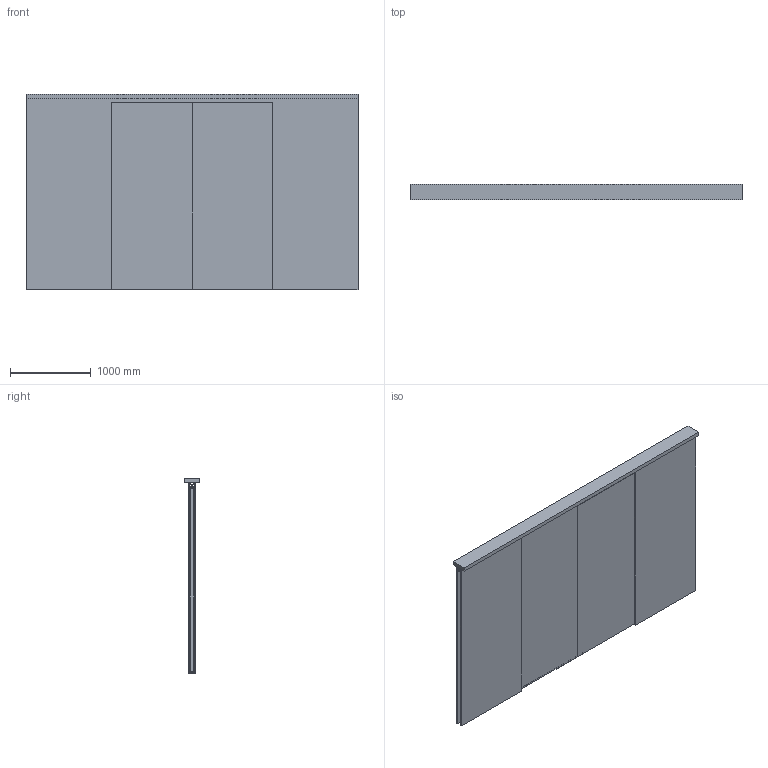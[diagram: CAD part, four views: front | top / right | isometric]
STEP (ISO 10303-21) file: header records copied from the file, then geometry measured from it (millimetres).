
FILE_DESCRIPTION(('STEP AP242'),'1');
FILE_NAME('OPO_65.080.21_volu_schn_3d.stp','2026-01-14T05:27:36',(' '),(' '),'Spatial InterOp 3D',' ',' ');
FILE_SCHEMA(('AP242_MANAGED_MODEL_BASED_3D_ENGINEERING_MIM_LF {1 0 10303 442 1 1 4}'));
Length unit declared in the file: millimetre
Products named in the file (1): 1
Bounding box: 4100 x 188 x 2418 mm (x, y, z)
Volume: 427525396 mm3; surface area: 34669620.3 mm2
Topology: 9 solids, 9 shells, 312 faces, 4779 edges, 8372 vertices
Faces by surface type: plane 210, cylinder 94, torus 8
Entity records: 60775 total; most frequent: DIRECTION 6220, CARTESIAN_POINT 6149, STYLED_ITEM 4281, PRESENTATION_STYLE_ASSIGNMENT 4281, COLOUR_RGB 4281, COMPOSITE_CURVE 3969, CURVE_STYLE 3969, COMPOSITE_CURVE_SEGMENT 3969
